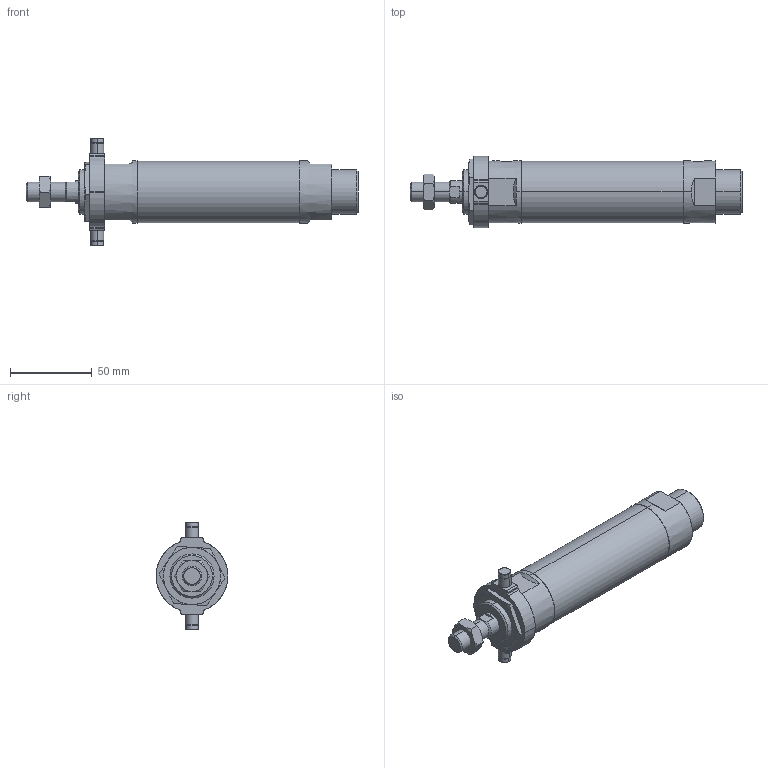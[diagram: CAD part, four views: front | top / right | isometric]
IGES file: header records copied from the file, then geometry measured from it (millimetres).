
Start section: SolidWorks IGES file using analytic representation for surfaces
Global section: file name: C:\Users\Toshiba\Desktop\J#2-32-50-T.IGS; native system: SolidWorks 2014; preprocessor: SolidWorks 2014; author: Toshiba; date: 160308.153331; units: millimetre
Bounding box: 203 x 44 x 66 mm (x, y, z)
Surface area: 31097 mm2 (no closed solid volume)
Topology: 0 solids, 0 shells, 133 faces, 2156 edges, 2152 vertices
Faces by surface type: bspline 67, revolution 66
